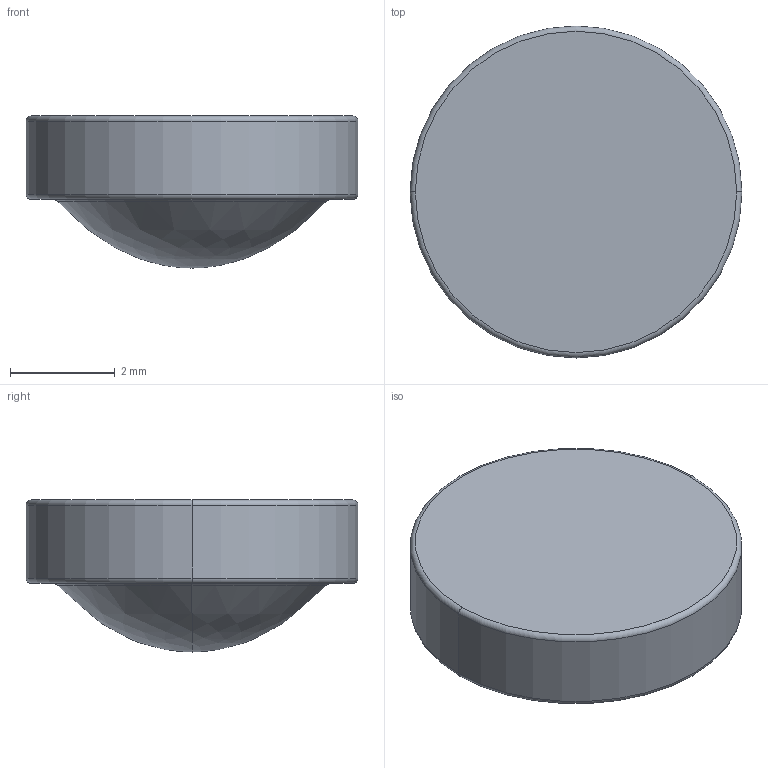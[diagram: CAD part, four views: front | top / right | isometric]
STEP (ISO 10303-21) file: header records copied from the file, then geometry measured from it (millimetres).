
FILE_DESCRIPTION((''),'2;1');
FILE_NAME('0357775','2025-06-01T18:55:01',('admin'),('LIGHTPATH'),'CREO PARAMETRIC BY PTC INC, 2024063','CREO PARAMETRIC BY PTC INC, 2024063','');
FILE_SCHEMA(('CONFIG_CONTROL_DESIGN'));
Length unit declared in the file: millimetre
Products named in the file (1): 0357775
Bounding box: 6.33 x 6.33 x 2.9 mm (x, y, z)
Volume: 64.2 mm3; surface area: 97.6 mm2
Topology: 1 solids, 1 shells, 12 faces, 24 edges, 13 vertices
Faces by surface type: torus 6, plane 2, cylinder 2, revolution 2
Entity records: 845 total; most frequent: CARTESIAN_POINT 554, DIRECTION 60, ORIENTED_EDGE 44, AXIS2_PLACEMENT_3D 28, EDGE_CURVE 22, CIRCLE 18, VERTEX_POINT 13, EDGE_LOOP 13
